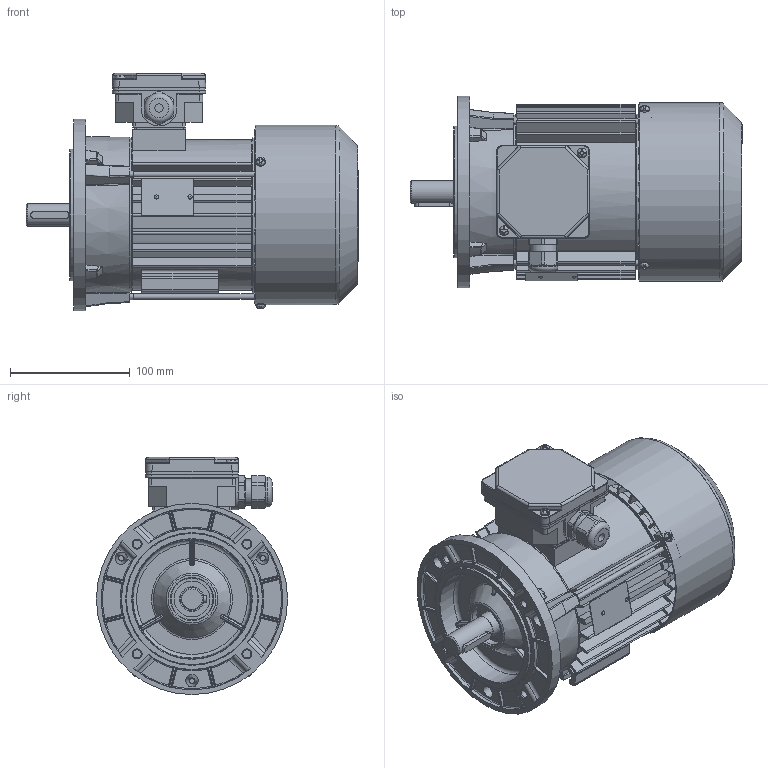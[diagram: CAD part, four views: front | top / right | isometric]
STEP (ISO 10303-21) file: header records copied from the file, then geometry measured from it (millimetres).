
FILE_DESCRIPTION( ( 'Unknown' ), '1' );
FILE_NAME( 'G:/Poczta Tk-1/STP/w.m.80/Sh80/SKh80-.B1.stp', 'Unknown', ( 'K. Szlosek' ), ( 'BESEL S.A.' ), 'PSStep 17.0.49', 'Unknown', ' ' );
FILE_SCHEMA( ( 'AUTOMOTIVE_DESIGN { 1 0 10303 214 1 1 1 1 }' ) );
Length unit declared in the file: millimetre
Products named in the file (29): skrznka zaciskowa trójfazowa ; K4-2820 Uszczelka nr 2 Sh71,80; Dławnica M20x1,5; K2-0859 Podstawa skrzynki 6-cio zaciskowej; K2-0860 Pokrywka skrzynki zaciskowej; Assem1; K1-1257 Kadłub S(E,M)h80-A i B; K3-2964 Osłona przewietrznika Sh80,90; K4-2320 Uszczelka nr 1 Sh71,80; K3-4616 wał standard Sh80-B; K3-6857 Tarcza łożyskowa P S(E,M)h80-B,D; Wkręt samogwintujący M4x8; Wpust A6x6x32; Wkręt samogwintujący M4x16; Nitokołek A 2x6; K3-4025 Przewietrznik Sg,h80; Tabliczka znamionowa 32x44; Łożysko 6204; Śruba ściągająca E_M5x130; K1-1259 Tarcza kołnierzowa 80 B14_1 
Assembly tree (44 placements, depth 3):
  Assem1
    K1-1257 Kadłub S(E,M)h80-A i B
    K3-2964 Osłona przewietrznika Sh80,90
    K4-2320 Uszczelka nr 1 Sh71,80
    K3-4616 wał standard Sh80-B
    K3-6857 Tarcza łożyskowa P S(E,M)h80-B,D
    Wkręt samogwintujący M4x8  x3
    Wpust A6x6x32
    Wkręt samogwintujący M4x16  x2
    Nitokołek A 2x6  x2
    K3-4025 Przewietrznik Sg,h80
    Tabliczka znamionowa 32x44
    Łożysko 6204  x2
    Łożysko 6204  x2
    Łożysko 6204  x2
    Łożysko 6204  x2
    Łożysko 6204  x2
    Łożysko 6204  x2
    Łożysko 6204  x2
    Łożysko 6204  x2
    Łożysko 6204  x2
    Łożysko 6204  x2
    Śruba ściągająca E_M5x130  x3
    K1-1259 Tarcza kołnierzowa 80 B14_1 
    skrznka zaciskowa trójfazowa 
      K4-2820 Uszczelka nr 2 Sh71,80
      Dławnica M20x1,5
      K2-0859 Podstawa skrzynki 6-cio zaciskowej
      K2-0860 Pokrywka skrzynki zaciskowej
Bounding box: 277.8 x 160 x 198.5 mm (x, y, z)
Volume: 875740.2 mm3; surface area: 541257.9 mm2
Topology: 43 solids, 59 shells, 2898 faces, 7781 edges, 4983 vertices
Faces by surface type: plane 1259, cylinder 829, bspline 363, torus 222, cone 181, sphere 44
Full cylindrical faces by diameter (mm): 2 x2, 2.4 x2, 3.7 x11, 4 x6, 4.2 x3, 4.5 x1, 4.6 x3, 4.8 x4, 5 x7, 5.5 x3, 6.8 x4, 7 x1, 8 x9, 18.376 x1, 18.38 x1, 19 x1, 19.3 x1, 19.5 x1, 19.9 x1, 20 x3, 20.3 x2, 20.4 x4, 22.3 x1, 25 x1, 25.5 x1, 26 x2, 26.1 x1, 27 x1, 28.802 x4, 30 x1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
Entity records: 174092 total; most frequent: CARTESIAN_POINT 86269, ORIENTED_EDGE 14104, DIRECTION 12882, EDGE_CURVE 7052, AXIS2_PLACEMENT_3D 4850, VERTEX_POINT 4649, EDGE_LOOP 3210, LINE 3182
